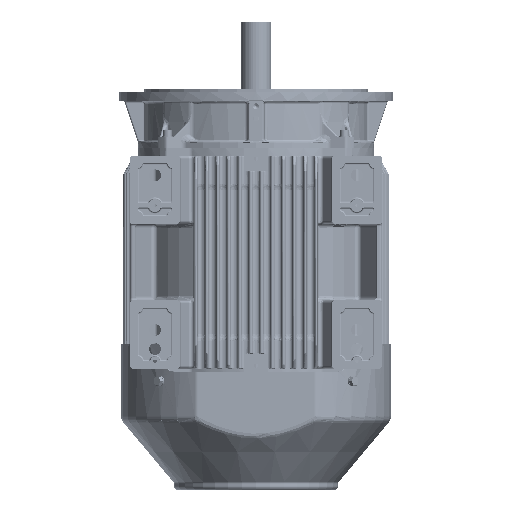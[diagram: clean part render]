
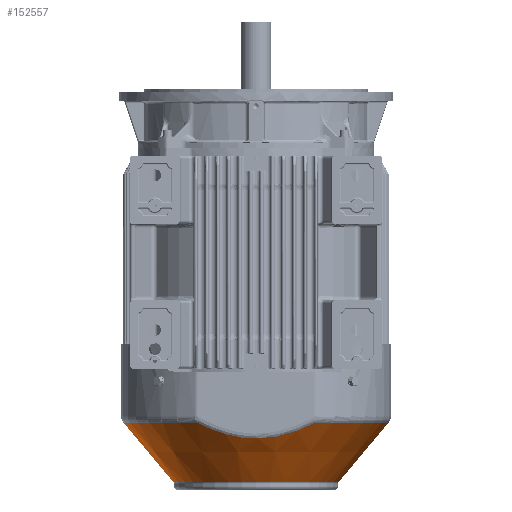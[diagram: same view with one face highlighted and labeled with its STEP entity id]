
A CAD part, front view. The second image highlights one B-rep face of the part: STEP entity #152557.
In plain terms, the highlighted conical face has half-angle 40 degrees and reference radius 166.872 mm.
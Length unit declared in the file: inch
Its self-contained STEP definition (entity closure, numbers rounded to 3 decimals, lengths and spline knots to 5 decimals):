
#4917 = DIRECTION ( 'NONE',  ( 1., 0., 0. ) ) ;
#27627 = LINE ( 'NONE', #48971, #47466 ) ;
#30664 = CARTESIAN_POINT ( 'NONE',  ( 10.48507, 0., -12.69986 ) ) ;
#33020 = CARTESIAN_POINT ( 'NONE',  ( 1.42262, -9.42372, -13.8381 ) ) ;
#33652 = LINE ( 'NONE', #407052, #473776 ) ;
#34092 = CARTESIAN_POINT ( 'NONE',  ( -4.68306, -9.38114, -12.69986 ) ) ;
#40159 = CARTESIAN_POINT ( 'NONE',  ( -6.56975, 0., -17.36596 ) ) ;
#41885 = ORIENTED_EDGE ( 'NONE', *, *, #120031, .T. ) ;
#46776 = EDGE_CURVE ( 'NONE', #154342, #426614, #98891, .T. ) ;
#47466 = VECTOR ( 'NONE', #391873, 39.37008 ) ;
#48971 = CARTESIAN_POINT ( 'NONE',  ( 6.56975, 0., -17.36596 ) ) ;
#62720 = VERTEX_POINT ( 'NONE', #30664 ) ;
#74196 = CIRCLE ( 'NONE', #472831, 10.48507 ) ;
#75975 = CARTESIAN_POINT ( 'NONE',  ( -0.80675, -9.42714, -13.92023 ) ) ;
#77820 = CARTESIAN_POINT ( 'NONE',  ( 1.32172, -9.42441, -13.85462 ) ) ;
#82573 = CARTESIAN_POINT ( 'NONE',  ( -10.48507, 0., -12.69986 ) ) ;
#85126 = CARTESIAN_POINT ( 'NONE',  ( -2.01885, -9.41902, -13.72434 ) ) ;
#86590 = EDGE_CURVE ( 'NONE', #477662, #426614, #346481, .T. ) ;
#87818 = EDGE_CURVE ( 'NONE', #157376, #62720, #27627, .T. ) ;
#98891 = CIRCLE ( 'NONE', #180828, 10.48507 ) ;
#114084 = DIRECTION ( 'NONE',  ( 1., 0., 0. ) ) ;
#118813 = CARTESIAN_POINT ( 'NONE',  ( 2.02586, -9.41874, -13.71636 ) ) ;
#120031 = EDGE_CURVE ( 'NONE', #191472, #157376, #361853, .T. ) ;
#123044 = EDGE_CURVE ( 'NONE', #191472, #154342, #33652, .T. ) ;
#129814 = CARTESIAN_POINT ( 'NONE',  ( -3.18703, -9.40504, -13.36858 ) ) ;
#131649 = CARTESIAN_POINT ( 'NONE',  ( -4.03733, -9.392, -13.01261 ) ) ;
#152557 = ADVANCED_FACE ( 'NONE', ( #351762 ), #438373, .T. ) ;
#154342 = VERTEX_POINT ( 'NONE', #82573 ) ;
#157376 = VERTEX_POINT ( 'NONE', #199791 ) ;
#164091 = CARTESIAN_POINT ( 'NONE',  ( 0., 0., -17.36596 ) ) ;
#172606 = CARTESIAN_POINT ( 'NONE',  ( -4.31647, -9.38743, -12.88366 ) ) ;
#180828 = AXIS2_PLACEMENT_3D ( 'NONE', #517427, #431615, #4917 ) ;
#191472 = VERTEX_POINT ( 'NONE', #40159 ) ;
#197627 = ORIENTED_EDGE ( 'NONE', *, *, #87818, .T. ) ;
#199791 = CARTESIAN_POINT ( 'NONE',  ( 6.56975, 0., -17.36596 ) ) ;
#200647 = CARTESIAN_POINT ( 'NONE',  ( 0.81691, -9.42747, -13.92828 ) ) ;
#204285 = CARTESIAN_POINT ( 'NONE',  ( 2.8119, -9.41011, -13.49977 ) ) ;
#252657 = CARTESIAN_POINT ( 'NONE',  ( -3.66117, -9.39792, -13.17606 ) ) ;
#281604 = CARTESIAN_POINT ( 'NONE',  ( 0., 0., -12.69986 ) ) ;
#286358 = CARTESIAN_POINT ( 'NONE',  ( -0.70498, -9.42753, -13.92947 ) ) ;
#290016 = CARTESIAN_POINT ( 'NONE',  ( 3.94884, -9.3936, -13.05903 ) ) ;
#291876 = CARTESIAN_POINT ( 'NONE',  ( 1.6243, -9.42221, -13.80151 ) ) ;
#296751 = AXIS2_PLACEMENT_3D ( 'NONE', #164091, #329894, #458539 ) ;
#315974 = DIRECTION ( 'NONE',  ( 0., 0., 1. ) ) ;
#321201 = DIRECTION ( 'NONE',  ( -0.643, 0., 0.766 ) ) ;
#328492 = AXIS2_PLACEMENT_3D ( 'NONE', #353399, #315974, #526772 ) ;
#329894 = DIRECTION ( 'NONE',  ( 0., 0., 1. ) ) ;
#332927 = CARTESIAN_POINT ( 'NONE',  ( 1.72522, -9.42139, -13.78141 ) ) ;
#343982 = CARTESIAN_POINT ( 'NONE',  ( -4.50063, -9.38431, -12.79358 ) ) ;
#346481 = B_SPLINE_CURVE_WITH_KNOTS ( 'NONE', 3,
 ( #370256, #502651, #290016, #543758, #204285, #547421, #118813, #332927, #291876, #33020, #77820, #200647, #418769, #377632, #461562, #286358, #75975, #465275, #383184, #379477, #426061, #468959, #85126, #549242, #129814, #252657, #386882, #552938, #131649, #172606, #343982, #509988 ),
 .UNSPECIFIED., .F., .F.,
 ( 4, 2, 2, 2, 2, 2, 2, 2, 2, 2, 2, 2, 2, 2, 2, 4 ),
 ( 0., 0.03097, 0.06194, 0.07742, 0.08516, 0.0929, 0.12387, 0.13936, 0.1471, 0.15097, 0.15484, 0.18581, 0.21678, 0.22452, 0.23226, 0.24774 ),
 .UNSPECIFIED. ) ;
#351762 = FACE_OUTER_BOUND ( 'NONE', #482739, .T. ) ;
#353399 = CARTESIAN_POINT ( 'NONE',  ( 0., 0., -17.36596 ) ) ;
#361853 = CIRCLE ( 'NONE', #328492, 6.56975 ) ;
#370256 = CARTESIAN_POINT ( 'NONE',  ( 4.68306, -9.38114, -12.69986 ) ) ;
#377632 = CARTESIAN_POINT ( 'NONE',  ( -0.19667, -9.42877, -13.95887 ) ) ;
#379477 = CARTESIAN_POINT ( 'NONE',  ( -1.11235, -9.42565, -13.88463 ) ) ;
#383184 = CARTESIAN_POINT ( 'NONE',  ( -1.01045, -9.4262, -13.89758 ) ) ;
#386882 = CARTESIAN_POINT ( 'NONE',  ( -3.75571, -9.39647, -13.1363 ) ) ;
#391873 = DIRECTION ( 'NONE',  ( 0.643, 0., 0.766 ) ) ;
#391935 = ORIENTED_EDGE ( 'NONE', *, *, #123044, .F. ) ;
#405742 = CARTESIAN_POINT ( 'NONE',  ( 4.68306, -9.38114, -12.69986 ) ) ;
#407052 = CARTESIAN_POINT ( 'NONE',  ( -6.56975, 0., -17.36596 ) ) ;
#418769 = CARTESIAN_POINT ( 'NONE',  ( 0.41208, -9.42875, -13.95841 ) ) ;
#426061 = CARTESIAN_POINT ( 'NONE',  ( -1.16331, -9.42537, -13.87769 ) ) ;
#426614 = VERTEX_POINT ( 'NONE', #34092 ) ;
#429175 = ORIENTED_EDGE ( 'NONE', *, *, #446543, .F. ) ;
#431615 = DIRECTION ( 'NONE',  ( 0., 0., 1. ) ) ;
#438373 = CONICAL_SURFACE ( 'NONE', #296751, 6.56975, 0.698 ) ;
#446543 = EDGE_CURVE ( 'NONE', #477662, #62720, #74196, .T. ) ;
#458539 = DIRECTION ( 'NONE',  ( 1., 0., 0. ) ) ;
#461562 = CARTESIAN_POINT ( 'NONE',  ( -0.39984, -9.42846, -13.95158 ) ) ;
#465275 = CARTESIAN_POINT ( 'NONE',  ( -0.95951, -9.42645, -13.90359 ) ) ;
#468959 = CARTESIAN_POINT ( 'NONE',  ( -1.62047, -9.42261, -13.81135 ) ) ;
#472831 = AXIS2_PLACEMENT_3D ( 'NONE', #281604, #499786, #114084 ) ;
#473776 = VECTOR ( 'NONE', #321201, 39.37008 ) ;
#477662 = VERTEX_POINT ( 'NONE', #405742 ) ;
#482739 = EDGE_LOOP ( 'NONE', ( #391935, #41885, #197627, #429175, #495391, #516957 ) ) ;
#495391 = ORIENTED_EDGE ( 'NONE', *, *, #86590, .T. ) ;
#499786 = DIRECTION ( 'NONE',  ( 0., 0., 1. ) ) ;
#502651 = CARTESIAN_POINT ( 'NONE',  ( 4.31871, -9.38747, -12.88704 ) ) ;
#509988 = CARTESIAN_POINT ( 'NONE',  ( -4.68306, -9.38114, -12.69986 ) ) ;
#516957 = ORIENTED_EDGE ( 'NONE', *, *, #46776, .F. ) ;
#517427 = CARTESIAN_POINT ( 'NONE',  ( 0., 0., -12.69986 ) ) ;
#526772 = DIRECTION ( 'NONE',  ( 1., 0., 0. ) ) ;
#543758 = CARTESIAN_POINT ( 'NONE',  ( 3.19544, -9.40492, -13.36539 ) ) ;
#547421 = CARTESIAN_POINT ( 'NONE',  ( 2.22396, -9.41673, -13.66656 ) ) ;
#549242 = CARTESIAN_POINT ( 'NONE',  ( -2.80213, -9.41024, -13.50295 ) ) ;
#552938 = CARTESIAN_POINT ( 'NONE',  ( -3.9438, -9.39351, -13.05457 ) ) ;
